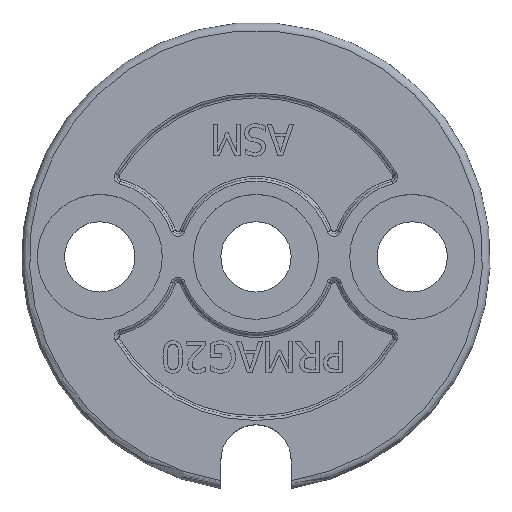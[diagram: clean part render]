
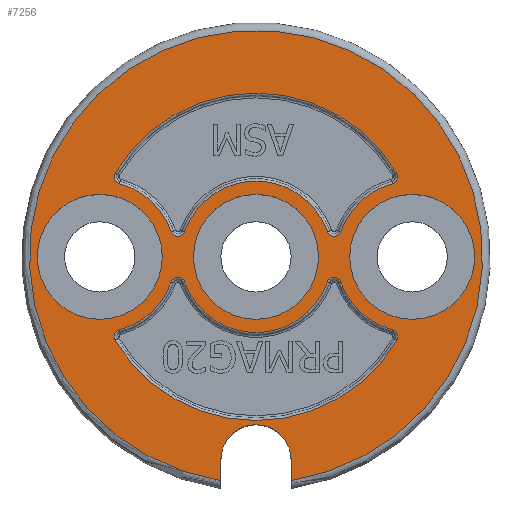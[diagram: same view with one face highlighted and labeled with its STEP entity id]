
A CAD part, top view. The second image highlights one B-rep face of the part: STEP entity #7256.
In plain terms, the highlighted planar face has unit normal (0, 0, 1).
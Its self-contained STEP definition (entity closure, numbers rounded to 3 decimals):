
#73=CARTESIAN_POINT('',(4.0,0.,5.0));
#74=VERTEX_POINT('',#73);
#75=CARTESIAN_POINT('',(0.,0.,5.0));
#76=DIRECTION('',(0.0,0.0,-1.0));
#77=DIRECTION('',(-1.0,0.0,0.0));
#78=AXIS2_PLACEMENT_3D('',#75,#76,#77);
#79=CIRCLE('',#78,4.0);
#80=EDGE_CURVE('',#74,#74,#79,.T.);
#6873=CARTESIAN_POINT('',(5.425,-1.609,5.0));
#6874=VERTEX_POINT('',#6873);
#6883=CARTESIAN_POINT('',(8.741,-4.684,5.0));
#6884=VERTEX_POINT('',#6883);
#6892=CARTESIAN_POINT('',(10.0,0.,5.0));
#6893=DIRECTION('',(0.,0.,-1.0));
#6894=DIRECTION('',(-0.68,-0.733,0.));
#6895=AXIS2_PLACEMENT_3D('',#6892,#6893,#6894);
#6896=CIRCLE('',#6895,4.85);
#6897=EDGE_CURVE('',#6884,#6874,#6896,.T.);
#6907=CARTESIAN_POINT('',(4.575,-1.609,5.0));
#6908=VERTEX_POINT('',#6907);
#6926=CARTESIAN_POINT('',(5.0,-1.758,5.0));
#6927=DIRECTION('',(0.0,0.0,1.0));
#6928=DIRECTION('',(0.0,1.0,0.0));
#6929=AXIS2_PLACEMENT_3D('',#6926,#6927,#6928);
#6930=CIRCLE('',#6929,0.45);
#6931=EDGE_CURVE('',#6874,#6908,#6930,.T.);
#6941=CARTESIAN_POINT('',(9.012,-5.348,5.0));
#6942=VERTEX_POINT('',#6941);
#6950=CARTESIAN_POINT('',(8.625,-5.118,5.0));
#6951=DIRECTION('',(0.,0.,1.0));
#6952=DIRECTION('',(0.926,0.377,0.));
#6953=AXIS2_PLACEMENT_3D('',#6950,#6951,#6952);
#6954=CIRCLE('',#6953,0.45);
#6955=EDGE_CURVE('',#6942,#6884,#6954,.T.);
#6967=CARTESIAN_POINT('',(-4.575,-1.609,5.0));
#6968=VERTEX_POINT('',#6967);
#6986=CARTESIAN_POINT('',(0.,0.,5.0));
#6987=DIRECTION('',(0.0,0.0,-1.0));
#6988=DIRECTION('',(0.0,-1.0,0.0));
#6989=AXIS2_PLACEMENT_3D('',#6986,#6987,#6988);
#6990=CIRCLE('',#6989,4.85);
#6991=EDGE_CURVE('',#6908,#6968,#6990,.T.);
#7001=CARTESIAN_POINT('',(-9.012,-5.348,5.0));
#7002=VERTEX_POINT('',#7001);
#7010=CARTESIAN_POINT('',(0.,0.,5.0));
#7011=DIRECTION('',(0.0,0.0,1.0));
#7012=DIRECTION('',(0.0,-1.0,0.0));
#7013=AXIS2_PLACEMENT_3D('',#7010,#7011,#7012);
#7014=CIRCLE('',#7013,10.479);
#7015=EDGE_CURVE('',#7002,#6942,#7014,.T.);
#7027=CARTESIAN_POINT('',(-5.425,-1.609,5.0));
#7028=VERTEX_POINT('',#7027);
#7046=CARTESIAN_POINT('',(-5.0,-1.758,5.0));
#7047=DIRECTION('',(0.0,0.0,1.0));
#7048=DIRECTION('',(0.0,1.0,0.0));
#7049=AXIS2_PLACEMENT_3D('',#7046,#7047,#7048);
#7050=CIRCLE('',#7049,0.45);
#7051=EDGE_CURVE('',#6968,#7028,#7050,.T.);
#7061=CARTESIAN_POINT('',(-8.741,-4.684,5.0));
#7062=VERTEX_POINT('',#7061);
#7070=CARTESIAN_POINT('',(-8.625,-5.118,5.0));
#7071=DIRECTION('',(0.,0.,1.));
#7072=DIRECTION('',(-0.926,0.377,0.));
#7073=AXIS2_PLACEMENT_3D('',#7070,#7071,#7072);
#7074=CIRCLE('',#7073,0.45);
#7075=EDGE_CURVE('',#7062,#7002,#7074,.T.);
#7088=CARTESIAN_POINT('',(-10.0,0.,5.0));
#7089=DIRECTION('',(0.,0.,-1.0));
#7090=DIRECTION('',(0.68,-0.733,0.));
#7091=AXIS2_PLACEMENT_3D('',#7088,#7089,#7090);
#7092=CIRCLE('',#7091,4.85);
#7093=EDGE_CURVE('',#7028,#7062,#7092,.T.);
#7106=CARTESIAN_POINT('',(0.,-1.943,5.0));
#7107=DIRECTION('',(0.0,0.0,1.0));
#7108=DIRECTION('',(1.0,0.0,0.0));
#7109=AXIS2_PLACEMENT_3D('',#7106,#7107,#7108);
#7110=PLANE('',#7109);
#7111=CARTESIAN_POINT('',(-2.25,-14.324,5.0));
#7112=VERTEX_POINT('',#7111);
#7113=CARTESIAN_POINT('',(2.25,-14.324,5.0));
#7114=VERTEX_POINT('',#7113);
#7115=CARTESIAN_POINT('',(0.,0.,5.0));
#7116=DIRECTION('',(0.0,0.0,-1.0));
#7117=DIRECTION('',(0.0,1.0,0.0));
#7118=AXIS2_PLACEMENT_3D('',#7115,#7116,#7117);
#7119=CIRCLE('',#7118,14.5);
#7120=EDGE_CURVE('',#7112,#7114,#7119,.T.);
#7121=ORIENTED_EDGE('',*,*,#7120,.F.);
#7122=CARTESIAN_POINT('',(-2.25,-13.0,5.0));
#7123=VERTEX_POINT('',#7122);
#7124=CARTESIAN_POINT('',(-2.25,-13.0,5.0));
#7125=DIRECTION('',(0.0,-1.0,0.0));
#7126=VECTOR('',#7125,1.324);
#7127=LINE('',#7124,#7126);
#7128=EDGE_CURVE('',#7123,#7112,#7127,.T.);
#7129=ORIENTED_EDGE('',*,*,#7128,.F.);
#7130=CARTESIAN_POINT('',(2.25,-13.0,5.0));
#7131=VERTEX_POINT('',#7130);
#7132=CARTESIAN_POINT('',(0.,-13.0,5.0));
#7133=DIRECTION('',(0.0,0.0,1.0));
#7134=DIRECTION('',(1.0,0.0,0.0));
#7135=AXIS2_PLACEMENT_3D('',#7132,#7133,#7134);
#7136=CIRCLE('',#7135,2.25);
#7137=EDGE_CURVE('',#7131,#7123,#7136,.T.);
#7138=ORIENTED_EDGE('',*,*,#7137,.F.);
#7139=CARTESIAN_POINT('',(2.25,-14.324,5.0));
#7140=DIRECTION('',(0.0,1.0,0.0));
#7141=VECTOR('',#7140,1.324);
#7142=LINE('',#7139,#7141);
#7143=EDGE_CURVE('',#7114,#7131,#7142,.T.);
#7144=ORIENTED_EDGE('',*,*,#7143,.F.);
#7145=EDGE_LOOP('',(#7121,#7129,#7138,#7144));
#7146=FACE_OUTER_BOUND('',#7145,.T.);
#7147=CARTESIAN_POINT('',(9.012,5.348,5.0));
#7148=VERTEX_POINT('',#7147);
#7149=CARTESIAN_POINT('',(-9.012,5.348,5.0));
#7150=VERTEX_POINT('',#7149);
#7151=CARTESIAN_POINT('',(0.,0.,5.0));
#7152=DIRECTION('',(0.0,0.0,1.0));
#7153=DIRECTION('',(0.0,1.0,0.0));
#7154=AXIS2_PLACEMENT_3D('',#7151,#7152,#7153);
#7155=CIRCLE('',#7154,10.479);
#7156=EDGE_CURVE('',#7148,#7150,#7155,.T.);
#7157=ORIENTED_EDGE('',*,*,#7156,.F.);
#7158=CARTESIAN_POINT('',(8.741,4.684,5.0));
#7159=VERTEX_POINT('',#7158);
#7160=CARTESIAN_POINT('',(8.625,5.118,5.0));
#7161=DIRECTION('',(0.,0.,1.));
#7162=DIRECTION('',(0.926,-0.377,0.));
#7163=AXIS2_PLACEMENT_3D('',#7160,#7161,#7162);
#7164=CIRCLE('',#7163,0.45);
#7165=EDGE_CURVE('',#7159,#7148,#7164,.T.);
#7166=ORIENTED_EDGE('',*,*,#7165,.F.);
#7167=CARTESIAN_POINT('',(5.425,1.609,5.0));
#7168=VERTEX_POINT('',#7167);
#7169=CARTESIAN_POINT('',(10.0,0.,5.0));
#7170=DIRECTION('',(0.,0.,-1.));
#7171=DIRECTION('',(-0.68,0.733,0.));
#7172=AXIS2_PLACEMENT_3D('',#7169,#7170,#7171);
#7173=CIRCLE('',#7172,4.85);
#7174=EDGE_CURVE('',#7168,#7159,#7173,.T.);
#7175=ORIENTED_EDGE('',*,*,#7174,.F.);
#7176=CARTESIAN_POINT('',(4.575,1.609,5.0));
#7177=VERTEX_POINT('',#7176);
#7178=CARTESIAN_POINT('',(5.0,1.758,5.0));
#7179=DIRECTION('',(0.0,0.0,1.0));
#7180=DIRECTION('',(0.0,-1.0,0.0));
#7181=AXIS2_PLACEMENT_3D('',#7178,#7179,#7180);
#7182=CIRCLE('',#7181,0.45);
#7183=EDGE_CURVE('',#7177,#7168,#7182,.T.);
#7184=ORIENTED_EDGE('',*,*,#7183,.F.);
#7185=CARTESIAN_POINT('',(-4.575,1.609,5.0));
#7186=VERTEX_POINT('',#7185);
#7187=CARTESIAN_POINT('',(0.,0.,5.0));
#7188=DIRECTION('',(0.0,0.0,-1.0));
#7189=DIRECTION('',(0.0,1.0,0.0));
#7190=AXIS2_PLACEMENT_3D('',#7187,#7188,#7189);
#7191=CIRCLE('',#7190,4.85);
#7192=EDGE_CURVE('',#7186,#7177,#7191,.T.);
#7193=ORIENTED_EDGE('',*,*,#7192,.F.);
#7194=CARTESIAN_POINT('',(-5.425,1.609,5.0));
#7195=VERTEX_POINT('',#7194);
#7196=CARTESIAN_POINT('',(-5.0,1.758,5.0));
#7197=DIRECTION('',(0.0,0.0,1.0));
#7198=DIRECTION('',(0.0,-1.0,0.0));
#7199=AXIS2_PLACEMENT_3D('',#7196,#7197,#7198);
#7200=CIRCLE('',#7199,0.45);
#7201=EDGE_CURVE('',#7195,#7186,#7200,.T.);
#7202=ORIENTED_EDGE('',*,*,#7201,.F.);
#7203=CARTESIAN_POINT('',(-8.741,4.684,5.0));
#7204=VERTEX_POINT('',#7203);
#7205=CARTESIAN_POINT('',(-10.0,0.,5.0));
#7206=DIRECTION('',(0.,0.,-1.0));
#7207=DIRECTION('',(0.68,0.733,0.));
#7208=AXIS2_PLACEMENT_3D('',#7205,#7206,#7207);
#7209=CIRCLE('',#7208,4.85);
#7210=EDGE_CURVE('',#7204,#7195,#7209,.T.);
#7211=ORIENTED_EDGE('',*,*,#7210,.F.);
#7212=CARTESIAN_POINT('',(-8.625,5.118,5.0));
#7213=DIRECTION('',(0.,0.,1.0));
#7214=DIRECTION('',(-0.926,-0.377,0.));
#7215=AXIS2_PLACEMENT_3D('',#7212,#7213,#7214);
#7216=CIRCLE('',#7215,0.45);
#7217=EDGE_CURVE('',#7150,#7204,#7216,.T.);
#7218=ORIENTED_EDGE('',*,*,#7217,.F.);
#7219=EDGE_LOOP('',(#7157,#7166,#7175,#7184,#7193,#7202,#7211,#7218));
#7220=FACE_BOUND('',#7219,.T.);
#7221=CARTESIAN_POINT('',(14.0,0.,5.0));
#7222=VERTEX_POINT('',#7221);
#7223=CARTESIAN_POINT('',(10.0,0.,5.0));
#7224=DIRECTION('',(0.0,0.0,-1.0));
#7225=DIRECTION('',(-1.0,0.0,0.0));
#7226=AXIS2_PLACEMENT_3D('',#7223,#7224,#7225);
#7227=CIRCLE('',#7226,4.0);
#7228=EDGE_CURVE('',#7222,#7222,#7227,.T.);
#7229=ORIENTED_EDGE('',*,*,#7228,.T.);
#7230=EDGE_LOOP('',(#7229));
#7231=FACE_BOUND('',#7230,.T.);
#7232=ORIENTED_EDGE('',*,*,#80,.T.);
#7233=EDGE_LOOP('',(#7232));
#7234=FACE_BOUND('',#7233,.T.);
#7235=CARTESIAN_POINT('',(-6.0,0.,5.0));
#7236=VERTEX_POINT('',#7235);
#7237=CARTESIAN_POINT('',(-10.0,0.,5.0));
#7238=DIRECTION('',(0.0,0.0,-1.0));
#7239=DIRECTION('',(-1.0,0.0,0.0));
#7240=AXIS2_PLACEMENT_3D('',#7237,#7238,#7239);
#7241=CIRCLE('',#7240,4.0);
#7242=EDGE_CURVE('',#7236,#7236,#7241,.T.);
#7243=ORIENTED_EDGE('',*,*,#7242,.T.);
#7244=EDGE_LOOP('',(#7243));
#7245=FACE_BOUND('',#7244,.T.);
#7246=ORIENTED_EDGE('',*,*,#6897,.F.);
#7247=ORIENTED_EDGE('',*,*,#6955,.F.);
#7248=ORIENTED_EDGE('',*,*,#7015,.F.);
#7249=ORIENTED_EDGE('',*,*,#7075,.F.);
#7250=ORIENTED_EDGE('',*,*,#7093,.F.);
#7251=ORIENTED_EDGE('',*,*,#7051,.F.);
#7252=ORIENTED_EDGE('',*,*,#6991,.F.);
#7253=ORIENTED_EDGE('',*,*,#6931,.F.);
#7254=EDGE_LOOP('',(#7246,#7247,#7248,#7249,#7250,#7251,#7252,#7253));
#7255=FACE_BOUND('',#7254,.T.);
#7256=ADVANCED_FACE('',(#7146,#7220,#7231,#7234,#7245,#7255),#7110,.T.);
